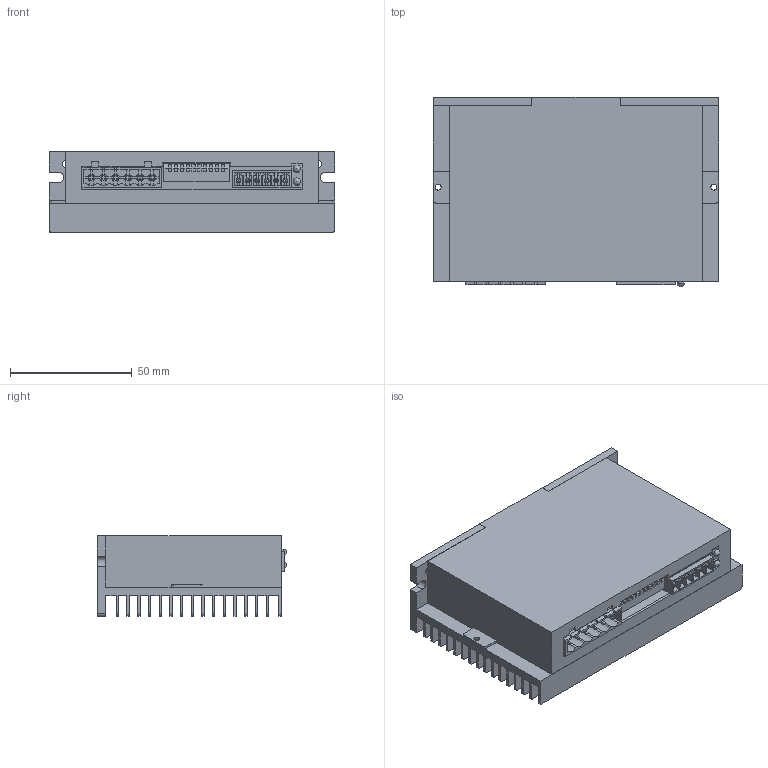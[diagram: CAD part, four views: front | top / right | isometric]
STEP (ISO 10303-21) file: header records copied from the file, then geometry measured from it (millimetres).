
FILE_DESCRIPTION(/* description */ ('Unknown'),/* implementation_level */ '2;1');
FILE_NAME(/* name */ 'CSD208驅動器',/* time_stamp */ '2021-05-04T10:34:16+08:00',/* author */ ('Unknown'),/* organization */ ('Unknown'),/* preprocessor_version */ 'ST-DEVELOPER v16.7',/* originating_system */ 'DEX',/* authorisation */ $);
FILE_SCHEMA (('AUTOMOTIVE_DESIGN {1 0 10303 214 3 1 1}'));
Length unit declared in the file: millimetre
Products named in the file (7): CSD208驅動器; CSD208¾T; 外嶔; 端玠; 囨挜; 端母(; 指示
Assembly tree (6 placements, depth 2):
  CSD208驅動器
    CSD208¾T
    外嶔
    端玠
    囨挜
    端母(
    指示
Bounding box: 117.2 x 77.72 x 33.1 mm (x, y, z)
Volume: 75136.1 mm3; surface area: 89033.5 mm2
Topology: 6 solids, 6 shells, 683 faces, 1853 edges, 1212 vertices
Faces by surface type: plane 576, cylinder 105, sphere 2
Full cylindrical faces by diameter (mm): 1.5 x6, 2 x6, 2.459 x4, 3 x2, 3.6 x2
Entity records: 25537 total; most frequent: CARTESIAN_POINT 3717, ORIENTED_EDGE 3646, DIRECTION 3425, EDGE_CURVE 1823, LINE 1601, VECTOR 1601, VERTEX_POINT 1204, AXIS2_PLACEMENT_3D 912
